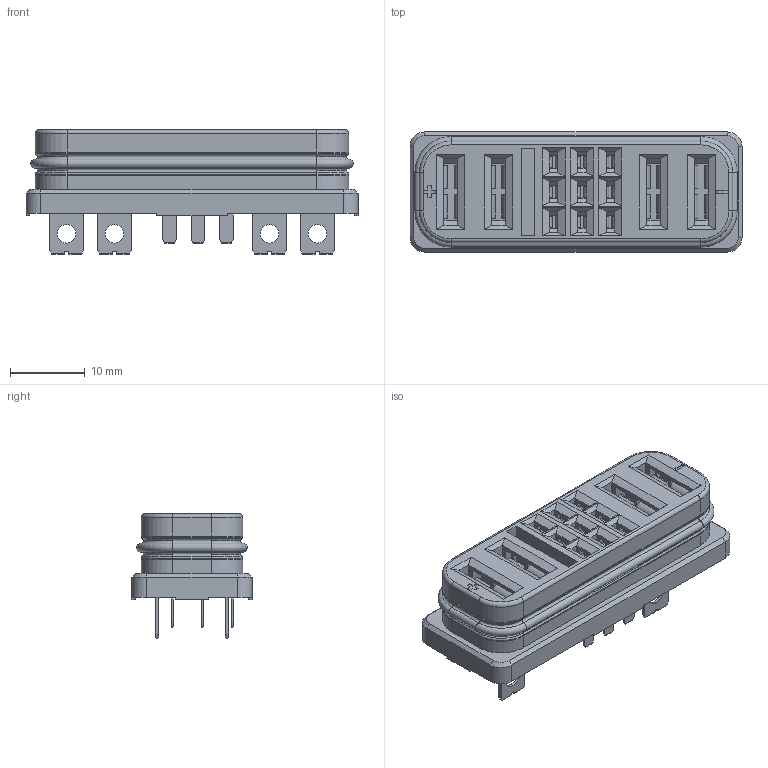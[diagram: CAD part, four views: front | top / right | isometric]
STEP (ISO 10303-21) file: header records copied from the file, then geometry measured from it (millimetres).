
FILE_DESCRIPTION((''),'2;1');
FILE_NAME('304B-3813SG2_ASM','2026-07-23T',('fros.liao'),(''),'CREO PARAMETRIC BY PTC INC, 2018360','CREO PARAMETRIC BY PTC INC, 2018360','');
FILE_SCHEMA(('CONFIG_CONTROL_DESIGN'));
Length unit declared in the file: millimetre
Products named in the file (7): T1-4P9S-FEMALE_12; T5-SN0017-1000X_1; T5-SN0017-2000X_1; T2-4P9S_4; 0-RING_1; 4P9S_FEMALE_BTB_ASM_10_ASM; 304B-3813SG2_ASM
Assembly tree (17 placements, depth 3):
  304B-3813SG2_ASM
    4P9S_FEMALE_BTB_ASM_10_ASM
      T1-4P9S-FEMALE_12
      T5-SN0017-1000X_1  x9
      T5-SN0017-2000X_1  x4
      T2-4P9S_4
      0-RING_1
Bounding box: 44.5 x 16.1 x 16.7 mm (x, y, z)
Volume: 4386.5 mm3; surface area: 9626.8 mm2
Topology: 16 solids, 18 shells, 2112 faces, 5838 edges, 3772 vertices
Faces by surface type: plane 1462, cylinder 602, torus 32, cone 16
Entity records: 33072 total; most frequent: CARTESIAN_POINT 5859, ORIENTED_EDGE 5706, DIRECTION 5443, EDGE_CURVE 2853, VECTOR 2457, LINE 2457, VERTEX_POINT 1808, AXIS2_PLACEMENT_3D 1493
